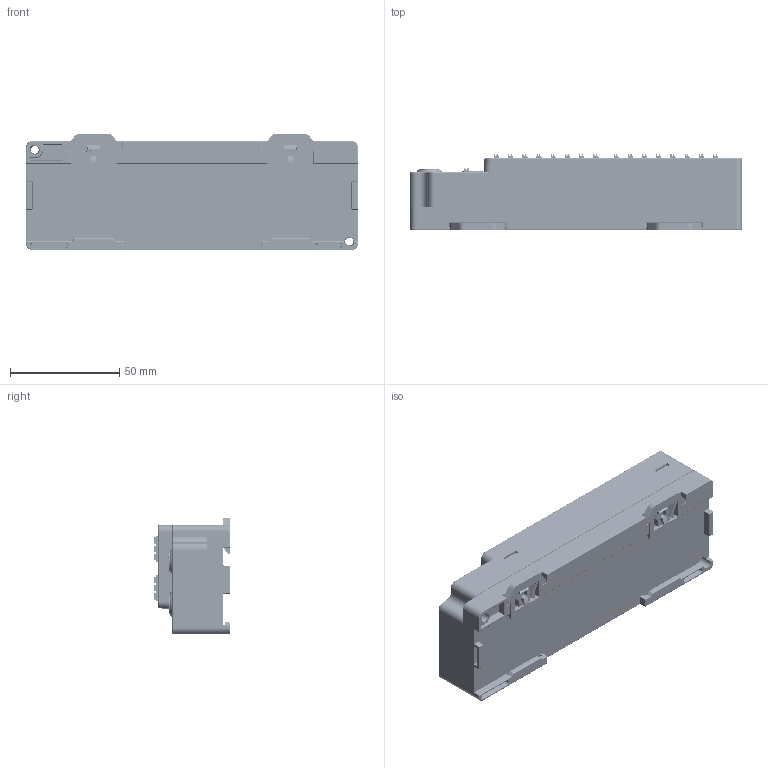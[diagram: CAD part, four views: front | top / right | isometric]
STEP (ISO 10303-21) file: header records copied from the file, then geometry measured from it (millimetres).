
FILE_DESCRIPTION((''),'2;1');
FILE_NAME('XBF5C-TOP-ASM','2025-12-11T09:44:33',('Administrator'),(''),'CREO PARAMETRIC BY PTC INC, 2022073','CREO PARAMETRIC BY PTC INC, 2022073','');
FILE_SCHEMA(('AUTOMOTIVE_DESIGN { 1 0 10303 214 1 1 1 1 }'));
Products named in the file (1): XBF5C-TOP-ASM
Bounding box: 152 x 34.9 x 53.35 mm (x, y, z)
Volume: 101801 mm3; surface area: 133940.4 mm2
Topology: 1 solids, 85 shells, 26017 faces, 72745 edges, 47552 vertices
Faces by surface type: plane 18002, cylinder 5132, extrusion 948, bspline 900, torus 492, cone 481, sphere 62
Entity records: 1131165 total; most frequent: CARTESIAN_POINT 285923, ORIENTED_EDGE 144894, DIRECTION 129136, EDGE_CURVE 72447, VECTOR 56438, LINE 55490, VERTEX_POINT 47424, AXIS2_PLACEMENT_3D 36349
